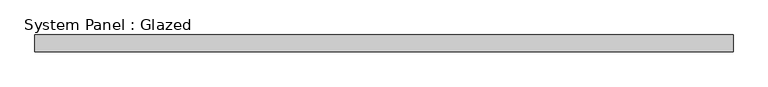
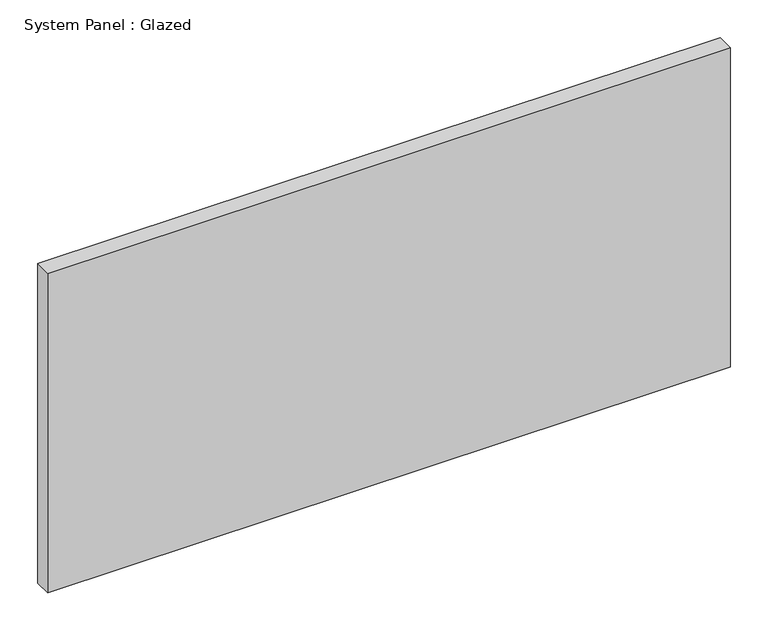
"""IFC4 building model written with IfcOpenShell, lengths in millimetres: plate geometry, System Panel : Glazed."""

from ifc_helpers import new_model, si_unit, origin, origin_with_axes, place, context, project, spatial, polyline, outline, extrude, source, transform, mapped, element, save


def system_panel_glazed_b7f75081(model_context):
    return source(origin(), model_context, "Body", "SweptSolid", [
        extrude(outline(polyline([(519.3392857, 19.05), (-519.3392857, 19.05), (-519.3392857, 44.45), (519.3392857, 44.45), (519.3392857, 19.05)])), origin_with_axes(), (0.0, 0.0, 1.0), 514.35),
    ])


if __name__ == "__main__":
    model = new_model("IFC4")
    model_context = context("Model", 3, world=origin())
    ifc_project = project(units=[si_unit("LENGTHUNIT", "METRE", prefix="MILLI")], contexts=[model_context])
    site = spatial("IfcSite", under=ifc_project)
    building = spatial("IfcBuilding", under=site)
    placement = place(None, origin())
    system_panel_glazed_shape = system_panel_glazed_b7f75081(model_context)
    element("IfcPlate", 1, ObjectType="System Panel : Glazed", at=placement, inside=building, context=model_context, shape_type="MappedRepresentation", body=[
        mapped(system_panel_glazed_shape, transform((0.0, 0.0, 0.0), x_axis=(1.0, 0.0, 0.0), y_axis=(0.0, 1.0, 0.0), z_axis=(0.0, 0.0, 1.0))),
    ])
    save(model, "model.ifc")
